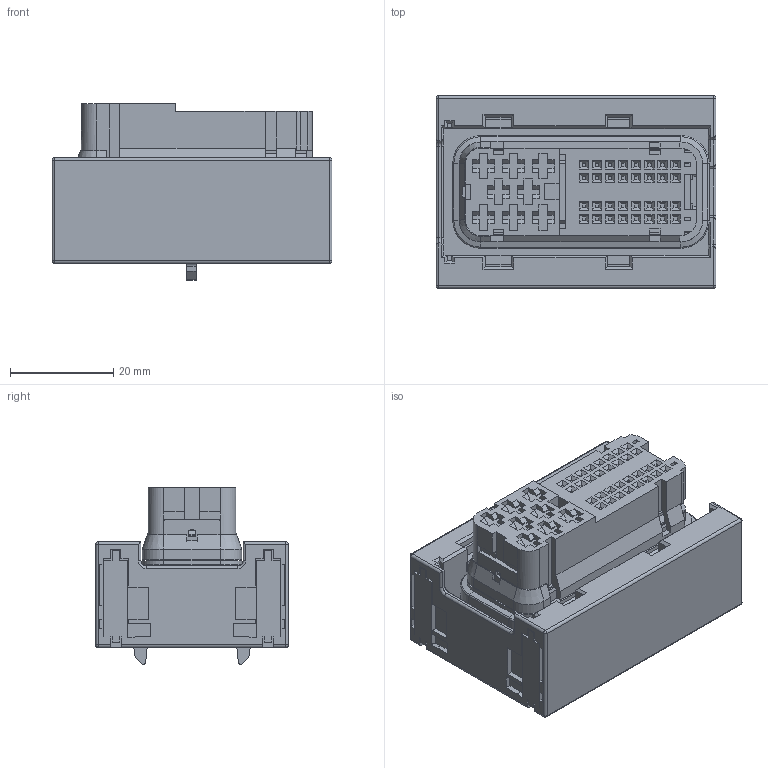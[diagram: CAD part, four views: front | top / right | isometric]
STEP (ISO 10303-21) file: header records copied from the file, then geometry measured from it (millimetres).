
FILE_DESCRIPTION((''),'2;1');
FILE_NAME('C-1473252-1','2008-04-07T',('workeradm'),('Tyco Electronics Corporation'),'PRO/ENGINEER BY PARAMETRIC TECHNOLOGY CORPORATION, 2005450','PRO/ENGINEER BY PARAMETRIC TECHNOLOGY CORPORATION, 2005450','');
FILE_SCHEMA(('CONFIG_CONTROL_DESIGN', 'GEOMETRIC_VALIDATION_PROPERTIES_MIM'));
Length unit declared in the file: millimetre
Products named in the file (1): C-1473252-1
Bounding box: 54.3 x 37.4 x 34.27 mm (x, y, z)
Volume: 39360.8 mm3; surface area: 17283.2 mm2
Topology: 1 solids, 3 shells, 2212 faces, 5982 edges, 3886 vertices
Faces by surface type: plane 2037, cylinder 141, torus 14, cone 12, sphere 8
Entity records: 68229 total; most frequent: CARTESIAN_POINT 12311, ORIENTED_EDGE 11964, DIRECTION 10684, EDGE_CURVE 5982, VECTOR 5652, LINE 5652, VERTEX_POINT 3886, AXIS2_PLACEMENT_3D 2516
